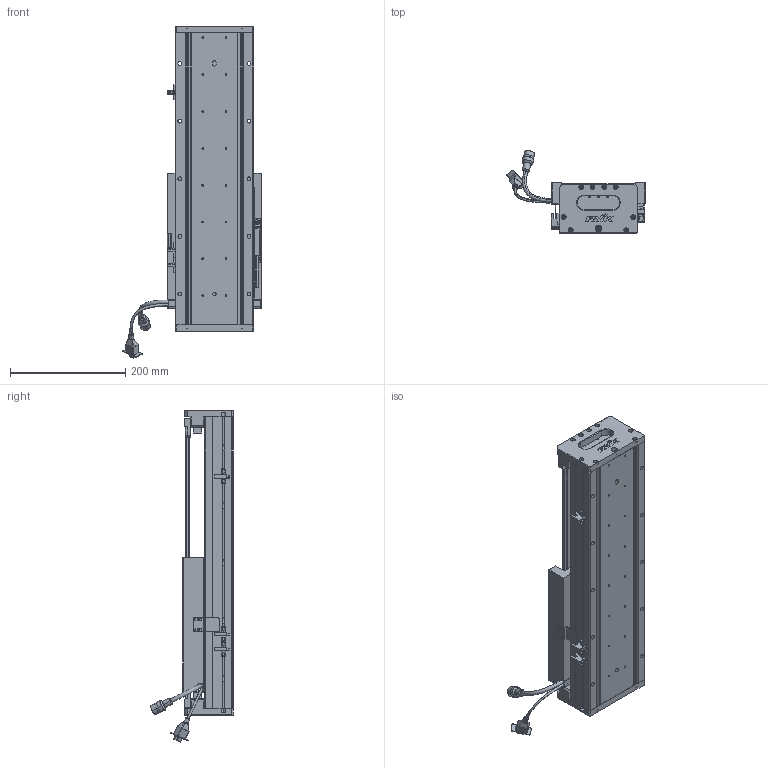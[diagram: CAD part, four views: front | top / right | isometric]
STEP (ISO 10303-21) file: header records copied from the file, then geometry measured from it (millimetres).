
FILE_DESCRIPTION (( 'STEP AP203' ), '1' );
FILE_NAME ('Z3-RY140D-1-L500-B-K.SLDASM_0200.step', '2021-05-17T07:59:54', ( '盈信电脑' ), ( '东莞市道滘镇水果街19号' ), 'SwSTEP 2.0', 'SolidWorks 2016', '' );
FILE_SCHEMA (( 'CONFIG_CONTROL_DESIGN' ));
Length unit declared in the file: millimetre
Products named in the file (36): SCREW-M1.6-3; HARNESS-Part-1; SCREW-M1.7; LABEL-Part-1; COVER; SEAL-Part-1; SCREW-M1.7-1; COVER-Part-1; SEAL; HARNESS-Part-2; Z-RY140詩湍奻揤裔; 080黍杅芛假蚾釱21遴; SHIELDPLATE; Z-RY140感应器672光电感应片; 140-Z-臏賑輸盄裔(21遴); Z3-RY140D-1-L500-B-K.SLDASM_0200; HOLDER0; 140雄赽晤鎢ん堤盄; Z-140詩湍傷裔啣; HARNESS; SCALE-Part-2; SCREW-M1.6-1; Z3-RY140-L500詩湍100mm遵_0200; SCREW-M1.6-2; 榋妏寠巭燃_暯_M2_2; Z-RY140詩湍狟揤裔; 140蚥薯蝶輸; Z3-RY140圉猾敕臏賑輸(21遴); PSLH080_PSLF2; SCALE; LABEL; SCALE-Part-1; SCREW-M1.6; Z3-RY140-L500直线电机模组底座_0200; 覜茼ん672; PBU_SHEET
Assembly tree (41 placements, depth 4):
  Z3-RY140D-1-L500-B-K.SLDASM_0200
    Z3-RY140-L500直线电机模组底座_0200
    Z-RY140感应器672光电感应片
    Z3-RY140圉猾敕臏賑輸(21遴)
    覜茼ん672  x3
    Z3-RY140-L500詩湍100mm遵_0200
    PSLH080_PSLF2
      SCALE
        SCALE-Part-1
        SCALE-Part-2
      HARNESS
        HARNESS-Part-1
        HARNESS-Part-2
      LABEL
        LABEL-Part-1
      COVER
        COVER-Part-1
      SEAL
        SEAL-Part-1
      榋妏寠巭燃_暯_M2_2
      SHIELDPLATE
      SCREW-M1.7
      SCREW-M1.7-1
      PBU_SHEET
      SCREW-M1.6
      SCREW-M1.6-1
      SCREW-M1.6-2
      SCREW-M1.6-3
      HOLDER0
    080黍杅芛假蚾釱21遴
    140-Z-臏賑輸盄裔(21遴)
    Z-140詩湍傷裔啣  x2
    Z-RY140詩湍狟揤裔  x2
    Z-RY140詩湍奻揤裔  x2
    140蚥薯蝶輸  x2
    140雄赽晤鎢ん堤盄
Bounding box: 239.84 x 143.88 x 575.88 mm (x, y, z)
Volume: 2630489.4 mm3; surface area: 669980.5 mm2
Topology: 36 solids, 36 shells, 2608 faces, 6768 edges, 4281 vertices
Faces by surface type: cylinder 1146, plane 1074, cone 266, torus 69, bspline 53
Entity records: 73368 total; most frequent: CARTESIAN_POINT 17305, DIRECTION 11004, ORIENTED_EDGE 10728, EDGE_CURVE 5364, AXIS2_PLACEMENT_3D 4028, VERTEX_POINT 3449, VECTOR 2948, LINE 2948
